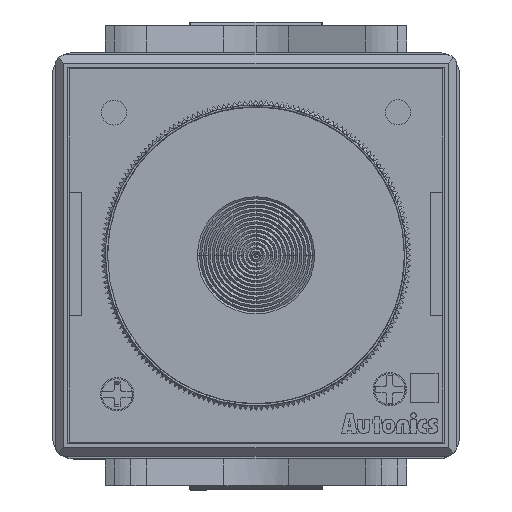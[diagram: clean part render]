
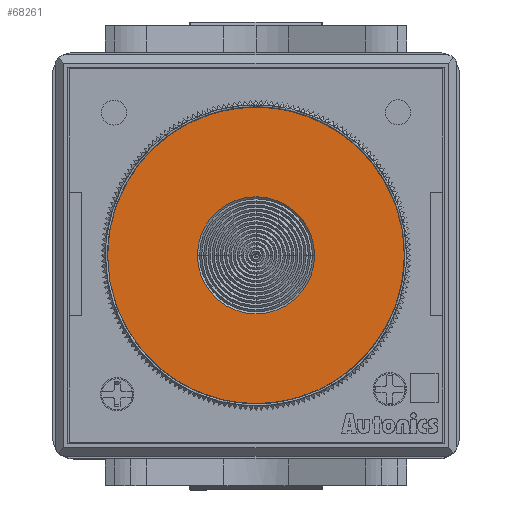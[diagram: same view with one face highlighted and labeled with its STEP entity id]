
A CAD part, top view. The second image highlights one B-rep face of the part: STEP entity #68261.
In plain terms, the highlighted planar face has unit normal (0, 0, 1).
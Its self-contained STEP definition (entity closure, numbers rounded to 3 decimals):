
#3809 = FACE_BOUND ( 'NONE', #9225, .T. ) ;
#4163 = VERTEX_POINT ( 'NONE', #23941 ) ;
#4177 = DIRECTION ( 'NONE',  ( 1., 0., 0. ) ) ;
#5925 = DIRECTION ( 'NONE',  ( 1., 0., 0. ) ) ;
#6359 = CARTESIAN_POINT ( 'NONE',  ( -13.008, 20.627, 119.075 ) ) ;
#6573 = CARTESIAN_POINT ( 'NONE',  ( -30.758, 20.627, 119.075 ) ) ;
#7964 = CIRCLE ( 'NONE', #37648, 17.75 ) ;
#8305 = ORIENTED_EDGE ( 'NONE', *, *, #11793, .T. ) ;
#9225 = EDGE_LOOP ( 'NONE', ( #38648, #8305 ) ) ;
#10951 = EDGE_LOOP ( 'NONE', ( #13408, #78983 ) ) ;
#11761 = DIRECTION ( 'NONE',  ( 0., 0., 1. ) ) ;
#11793 = EDGE_CURVE ( 'NONE', #19360, #4163, #72510, .T. ) ;
#12223 = DIRECTION ( 'NONE',  ( 1., 0., 0. ) ) ;
#12515 = CARTESIAN_POINT ( 'NONE',  ( -37.758, 20.627, 119.075 ) ) ;
#13408 = ORIENTED_EDGE ( 'NONE', *, *, #21898, .T. ) ;
#19360 = VERTEX_POINT ( 'NONE', #12515 ) ;
#21898 = EDGE_CURVE ( 'NONE', #62532, #75360, #7964, .T. ) ;
#23941 = CARTESIAN_POINT ( 'NONE',  ( -23.758, 20.627, 119.075 ) ) ;
#27373 = CIRCLE ( 'NONE', #38324, 17.75 ) ;
#31054 = DIRECTION ( 'NONE',  ( 0., 0., -1. ) ) ;
#32464 = DIRECTION ( 'NONE',  ( 0., 0., 1. ) ) ;
#32696 = EDGE_CURVE ( 'NONE', #4163, #19360, #76370, .T. ) ;
#37648 = AXIS2_PLACEMENT_3D ( 'NONE', #6573, #32464, #12223 ) ;
#38324 = AXIS2_PLACEMENT_3D ( 'NONE', #61154, #42074, #5925 ) ;
#38648 = ORIENTED_EDGE ( 'NONE', *, *, #32696, .T. ) ;
#39683 = CARTESIAN_POINT ( 'NONE',  ( -48.508, 20.627, 119.075 ) ) ;
#42074 = DIRECTION ( 'NONE',  ( 0., 0., 1. ) ) ;
#42508 = PLANE ( 'NONE',  #45798 ) ;
#42890 = DIRECTION ( 'NONE',  ( 1., 0., 0. ) ) ;
#44297 = FACE_OUTER_BOUND ( 'NONE', #10951, .T. ) ;
#45798 = AXIS2_PLACEMENT_3D ( 'NONE', #79664, #11761, #61894 ) ;
#52915 = CARTESIAN_POINT ( 'NONE',  ( -30.758, 20.627, 119.075 ) ) ;
#53434 = DIRECTION ( 'NONE',  ( 0., 0., -1. ) ) ;
#55222 = CARTESIAN_POINT ( 'NONE',  ( -30.758, 20.627, 119.075 ) ) ;
#61154 = CARTESIAN_POINT ( 'NONE',  ( -30.758, 20.627, 119.075 ) ) ;
#61894 = DIRECTION ( 'NONE',  ( 1., 0., 0. ) ) ;
#62532 = VERTEX_POINT ( 'NONE', #6359 ) ;
#68261 = ADVANCED_FACE ( 'NONE', ( #44297, #3809 ), #42508, .T. ) ;
#72510 = CIRCLE ( 'NONE', #74555, 7. ) ;
#74555 = AXIS2_PLACEMENT_3D ( 'NONE', #52915, #53434, #4177 ) ;
#75360 = VERTEX_POINT ( 'NONE', #39683 ) ;
#75551 = EDGE_CURVE ( 'NONE', #75360, #62532, #27373, .T. ) ;
#76370 = CIRCLE ( 'NONE', #78782, 7. ) ;
#78782 = AXIS2_PLACEMENT_3D ( 'NONE', #55222, #31054, #42890 ) ;
#78983 = ORIENTED_EDGE ( 'NONE', *, *, #75551, .T. ) ;
#79664 = CARTESIAN_POINT ( 'NONE',  ( -30.758, 20.627, 119.075 ) ) ;
